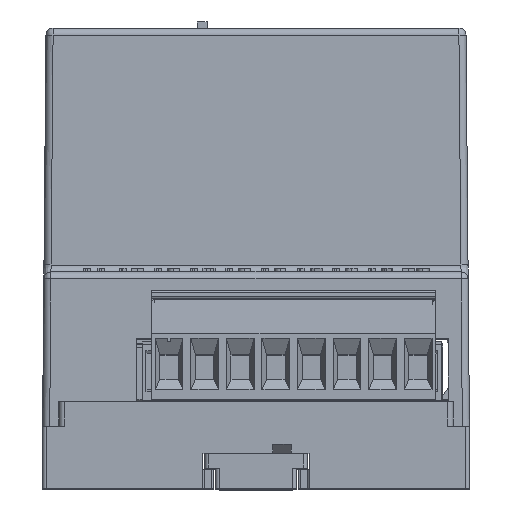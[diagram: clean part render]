
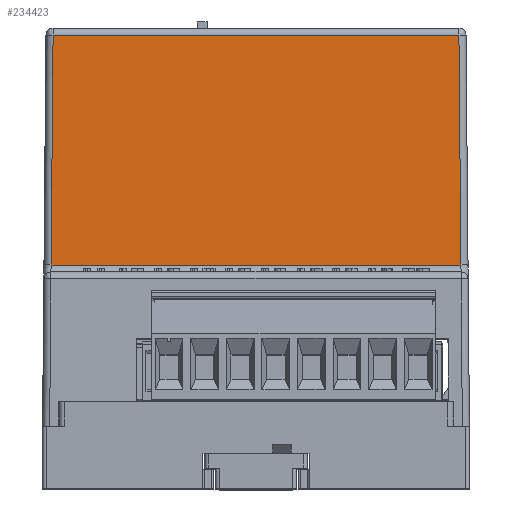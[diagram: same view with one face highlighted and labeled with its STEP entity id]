
A CAD part, top view. The second image highlights one B-rep face of the part: STEP entity #234423.
In plain terms, the highlighted planar face has unit normal (0, 0.009, 1).
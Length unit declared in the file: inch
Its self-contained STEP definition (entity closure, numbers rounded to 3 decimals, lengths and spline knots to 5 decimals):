
#9862 = VECTOR ( 'NONE', #209094, 39.37008 ) ;
#13809 = LINE ( 'NONE', #111351, #9862 ) ;
#21366 = EDGE_CURVE ( 'NONE', #295576, #108369, #212959, .T. ) ;
#32192 = ORIENTED_EDGE ( 'NONE', *, *, #272264, .T. ) ;
#41422 = LINE ( 'NONE', #116572, #236299 ) ;
#43069 = EDGE_CURVE ( 'NONE', #171615, #295576, #13809, .T. ) ;
#44588 = DIRECTION ( 'NONE',  ( 1., 0., 0. ) ) ;
#44835 = DIRECTION ( 'NONE',  ( -0.009, -1., 0.009 ) ) ;
#84539 = PLANE ( 'NONE',  #130290 ) ;
#87732 = CARTESIAN_POINT ( 'NONE',  ( -1.12283, 2.51215, 1.16966 ) ) ;
#108369 = VERTEX_POINT ( 'NONE', #203890 ) ;
#111351 = CARTESIAN_POINT ( 'NONE',  ( -1.1811, 2.51215, 1.16966 ) ) ;
#116572 = CARTESIAN_POINT ( 'NONE',  ( 1.17365, 1.23981, 1.18076 ) ) ;
#127797 = EDGE_CURVE ( 'NONE', #285551, #171615, #265290, .T. ) ;
#130290 = AXIS2_PLACEMENT_3D ( 'NONE', #225423, #257433, #162902 ) ;
#140788 = ORIENTED_EDGE ( 'NONE', *, *, #43069, .T. ) ;
#162902 = DIRECTION ( 'NONE',  ( 0., 1., -0.009 ) ) ;
#171615 = VERTEX_POINT ( 'NONE', #216274 ) ;
#175225 = VECTOR ( 'NONE', #44835, 39.37008 ) ;
#182079 = CARTESIAN_POINT ( 'NONE',  ( 1.13394, 1.23981, 1.18076 ) ) ;
#200957 = VECTOR ( 'NONE', #241270, 39.37008 ) ;
#201602 = FACE_OUTER_BOUND ( 'NONE', #266756, .T. ) ;
#203890 = CARTESIAN_POINT ( 'NONE',  ( -1.13394, 1.23981, 1.18076 ) ) ;
#204414 = ORIENTED_EDGE ( 'NONE', *, *, #21366, .T. ) ;
#209094 = DIRECTION ( 'NONE',  ( -1., 0., 0. ) ) ;
#212959 = LINE ( 'NONE', #214548, #175225 ) ;
#214548 = CARTESIAN_POINT ( 'NONE',  ( -1.1225, 2.55067, 1.16932 ) ) ;
#216274 = CARTESIAN_POINT ( 'NONE',  ( 1.12283, 2.51215, 1.16966 ) ) ;
#225423 = CARTESIAN_POINT ( 'NONE',  ( -1.1811, 2.55118, 1.16932 ) ) ;
#234423 = ADVANCED_FACE ( 'NONE', ( #201602 ), #84539, .F. ) ;
#236299 = VECTOR ( 'NONE', #44588, 39.37008 ) ;
#239725 = ORIENTED_EDGE ( 'NONE', *, *, #127797, .T. ) ;
#241270 = DIRECTION ( 'NONE',  ( -0.009, 1., -0.009 ) ) ;
#257433 = DIRECTION ( 'NONE',  ( 0., -0.009, -1. ) ) ;
#265290 = LINE ( 'NONE', #313511, #200957 ) ;
#266756 = EDGE_LOOP ( 'NONE', ( #239725, #140788, #204414, #32192 ) ) ;
#272264 = EDGE_CURVE ( 'NONE', #108369, #285551, #41422, .T. ) ;
#285551 = VERTEX_POINT ( 'NONE', #182079 ) ;
#295576 = VERTEX_POINT ( 'NONE', #87732 ) ;
#313511 = CARTESIAN_POINT ( 'NONE',  ( 1.12232, 2.57128, 1.16914 ) ) ;
